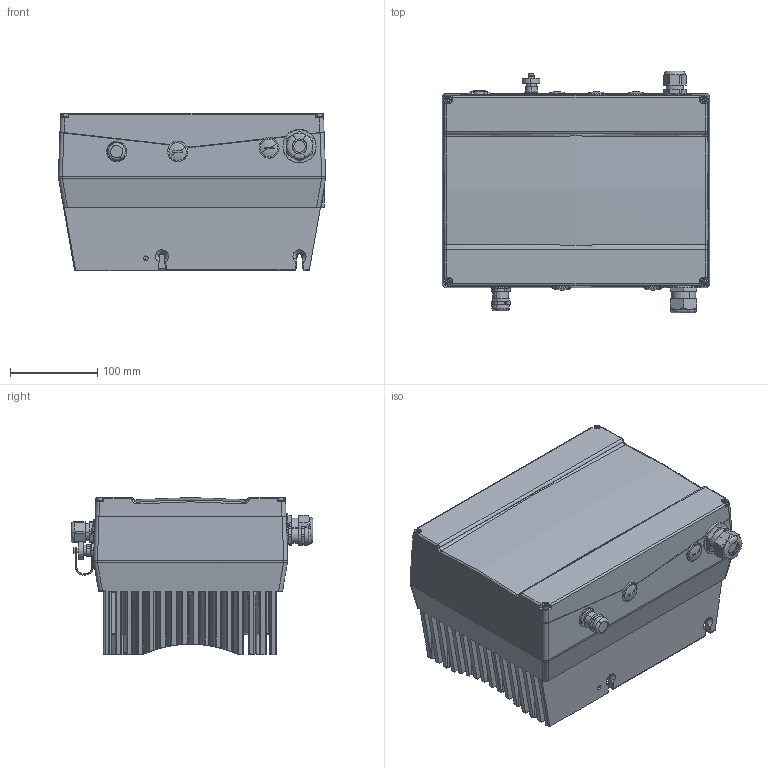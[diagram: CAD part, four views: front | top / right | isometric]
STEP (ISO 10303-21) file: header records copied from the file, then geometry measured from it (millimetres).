
FILE_DESCRIPTION(('CATIA V5 STEP 214'),'2;1');
FILE_NAME('C:\Temp\ddxv6\123204\INVEOR BG-C INTERNETDATEN 03.12.10.stp','2010-12-06T17:04:16+00:00',('Leopold Kostal'),('Kostal GmbH'),'CATIA Version 5 Release 19 SP 8 (IN-10)','CATIA V5 STEP AP214','none');
FILE_SCHEMA(('AUTOMOTIVE_DESIGN { 1 0 10303 214 1 1 1 1 }'));
Length unit declared in the file: millimetre
Products named in the file (1): 10080698-1-0002A_AllCATPart
Bounding box: 306.93 x 277.75 x 180.84 mm (x, y, z)
Volume: 8829686.7 mm3; surface area: 905735 mm2
Topology: 51 solids, 58 shells, 3461 faces, 9338 edges, 6125 vertices
Faces by surface type: plane 1891, cylinder 1015, cone 229, torus 170, bspline 69, extrusion 66, sphere 17, revolution 4
Entity records: 117248 total; most frequent: CARTESIAN_POINT 37935, ORIENTED_EDGE 18578, DIRECTION 11958, EDGE_CURVE 9295, VERTEX_POINT 6125, AXIS2_PLACEMENT_3D 4896, VECTOR 4680, LINE 4614
